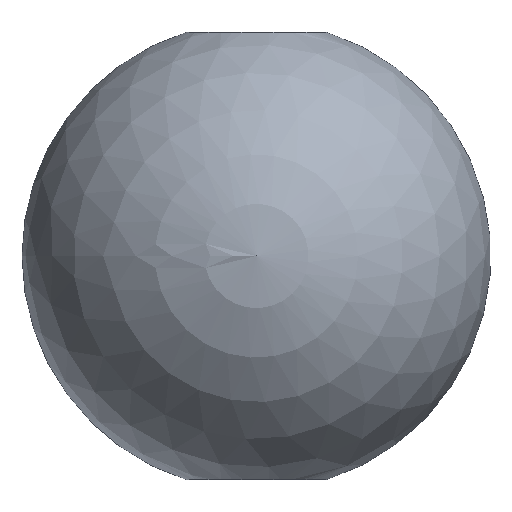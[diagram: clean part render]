
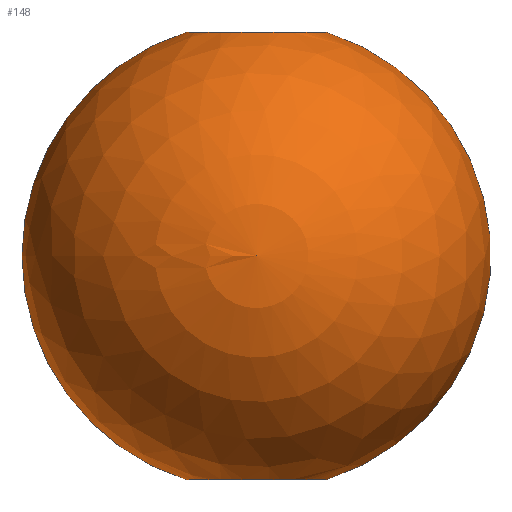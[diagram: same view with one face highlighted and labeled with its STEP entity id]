
A CAD part, left-side view. The second image highlights one B-rep face of the part: STEP entity #148.
In plain terms, the highlighted spherical face has radius 50 mm.
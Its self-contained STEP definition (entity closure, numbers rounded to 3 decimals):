
#2 = VERTEX_POINT ( 'NONE', #20 ) ;
#6 = CIRCLE ( 'NONE', #106, 15. ) ;
#8 = ORIENTED_EDGE ( 'NONE', *, *, #15, .T. ) ;
#10 = CARTESIAN_POINT ( 'NONE',  ( 0., 0., -47.697 ) ) ;
#15 = EDGE_CURVE ( 'NONE', #175, #41, #100, .T. ) ;
#16 = CARTESIAN_POINT ( 'NONE',  ( 0., -15., -47.697 ) ) ;
#18 = ORIENTED_EDGE ( 'NONE', *, *, #36, .F. ) ;
#20 = CARTESIAN_POINT ( 'NONE',  ( -15., 0., 47.697 ) ) ;
#21 = DIRECTION ( 'NONE',  ( 0., 0., -1. ) ) ;
#24 = AXIS2_PLACEMENT_3D ( 'NONE', #143, #51, #112 ) ;
#25 = DIRECTION ( 'NONE',  ( 1., 0., 0. ) ) ;
#34 = CARTESIAN_POINT ( 'NONE',  ( 0., 0., -47.697 ) ) ;
#35 = CIRCLE ( 'NONE', #157, 50. ) ;
#36 = EDGE_CURVE ( 'NONE', #114, #150, #35, .T. ) ;
#38 = CARTESIAN_POINT ( 'NONE',  ( 0., 15., 47.697 ) ) ;
#41 = VERTEX_POINT ( 'NONE', #64 ) ;
#46 = CARTESIAN_POINT ( 'NONE',  ( 0., 0., 0. ) ) ;
#51 = DIRECTION ( 'NONE',  ( 0., 0., -1. ) ) ;
#55 = AXIS2_PLACEMENT_3D ( 'NONE', #136, #21, #66 ) ;
#59 = EDGE_CURVE ( 'NONE', #2, #150, #142, .T. ) ;
#60 = ORIENTED_EDGE ( 'NONE', *, *, #115, .T. ) ;
#62 = DIRECTION ( 'NONE',  ( -1., 0., 0. ) ) ;
#64 = CARTESIAN_POINT ( 'NONE',  ( 0., -15., 47.697 ) ) ;
#66 = DIRECTION ( 'NONE',  ( -1., 0., 0. ) ) ;
#67 = CARTESIAN_POINT ( 'NONE',  ( 0., 15., -47.697 ) ) ;
#71 = EDGE_CURVE ( 'NONE', #146, #175, #6, .T. ) ;
#85 = DIRECTION ( 'NONE',  ( -1., 0., 0. ) ) ;
#90 = ORIENTED_EDGE ( 'NONE', *, *, #59, .T. ) ;
#96 = FACE_OUTER_BOUND ( 'NONE', #103, .T. ) ;
#98 = CIRCLE ( 'NONE', #152, 15. ) ;
#100 = CIRCLE ( 'NONE', #149, 50. ) ;
#103 = EDGE_LOOP ( 'NONE', ( #60, #144, #8, #118, #90, #18 ) ) ;
#106 = AXIS2_PLACEMENT_3D ( 'NONE', #34, #179, #166 ) ;
#108 = DIRECTION ( 'NONE',  ( 1., 0., 0. ) ) ;
#110 = CARTESIAN_POINT ( 'NONE',  ( -15., 0., -47.697 ) ) ;
#111 = DIRECTION ( 'NONE',  ( 0., 1., 0. ) ) ;
#112 = DIRECTION ( 'NONE',  ( -1., 0., 0. ) ) ;
#114 = VERTEX_POINT ( 'NONE', #67 ) ;
#115 = EDGE_CURVE ( 'NONE', #114, #146, #98, .T. ) ;
#118 = ORIENTED_EDGE ( 'NONE', *, *, #163, .T. ) ;
#122 = DIRECTION ( 'NONE',  ( 0., -1., 0. ) ) ;
#123 = CIRCLE ( 'NONE', #24, 15. ) ;
#136 = CARTESIAN_POINT ( 'NONE',  ( 0., 0., 47.697 ) ) ;
#138 = CARTESIAN_POINT ( 'NONE',  ( 0., 0., 0. ) ) ;
#140 = AXIS2_PLACEMENT_3D ( 'NONE', #138, #85, #111 ) ;
#142 = CIRCLE ( 'NONE', #55, 15. ) ;
#143 = CARTESIAN_POINT ( 'NONE',  ( 0., 0., 47.697 ) ) ;
#144 = ORIENTED_EDGE ( 'NONE', *, *, #71, .T. ) ;
#146 = VERTEX_POINT ( 'NONE', #110 ) ;
#148 = ADVANCED_FACE ( 'NONE', ( #96 ), #156, .T. ) ;
#149 = AXIS2_PLACEMENT_3D ( 'NONE', #46, #62, #122 ) ;
#150 = VERTEX_POINT ( 'NONE', #38 ) ;
#152 = AXIS2_PLACEMENT_3D ( 'NONE', #10, #153, #108 ) ;
#153 = DIRECTION ( 'NONE',  ( 0., 0., 1. ) ) ;
#155 = DIRECTION ( 'NONE',  ( 0., 0., -1. ) ) ;
#156 = SPHERICAL_SURFACE ( 'NONE', #140, 50. ) ;
#157 = AXIS2_PLACEMENT_3D ( 'NONE', #162, #25, #155 ) ;
#162 = CARTESIAN_POINT ( 'NONE',  ( 0., 0., 0. ) ) ;
#163 = EDGE_CURVE ( 'NONE', #41, #2, #123, .T. ) ;
#166 = DIRECTION ( 'NONE',  ( 1., 0., 0. ) ) ;
#175 = VERTEX_POINT ( 'NONE', #16 ) ;
#179 = DIRECTION ( 'NONE',  ( 0., 0., 1. ) ) ;
